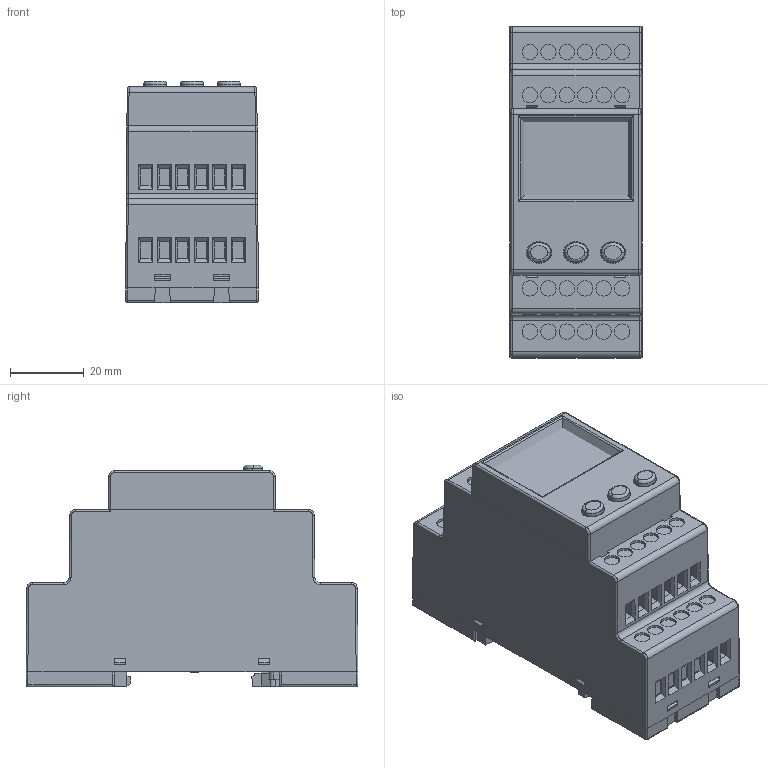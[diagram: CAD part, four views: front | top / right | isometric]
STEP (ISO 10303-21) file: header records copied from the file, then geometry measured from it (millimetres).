
FILE_DESCRIPTION (( 'STEP AP214' ), '1' );
FILE_NAME ('MRM32_MRM32R.STEP', '2024-04-11T06:35:04', ( '' ), ( '' ), 'SwSTEP 2.0', 'SolidWorks 2022', '' );
FILE_SCHEMA (( 'AUTOMOTIVE_DESIGN' ));
Length unit declared in the file: millimetre
Products named in the file (1): MRM32_MRM32R
Bounding box: 36 x 90 x 60 mm (x, y, z)
Volume: 131538.4 mm3; surface area: 36382 mm2
Topology: 1 solids, 5 shells, 1048 faces, 2768 edges, 1779 vertices
Faces by surface type: plane 762, bspline 132, cylinder 117, cone 27, torus 6, sphere 4
Entity records: 40118 total; most frequent: CARTESIAN_POINT 14957, ORIENTED_EDGE 5536, DIRECTION 4480, EDGE_CURVE 2768, LINE 2186, VECTOR 2186, VERTEX_POINT 1779, EDGE_LOOP 1151
